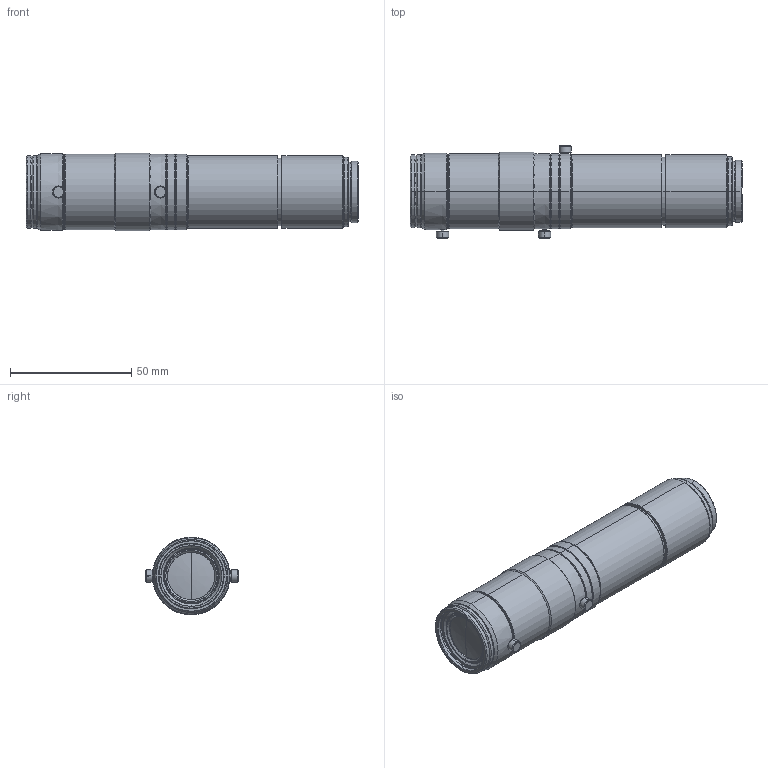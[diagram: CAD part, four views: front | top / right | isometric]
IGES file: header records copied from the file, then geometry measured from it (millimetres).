
Start section: SolidWorks IGES file using analytic representation for surfaces
Global section: file name: \\192.168.200.11\Development\3 製品\1 標準品\04 ズームレンズ\01 8x (VSZ-M0108S VSZ-M0324S)\VSZ-M0324S\VSZ-0324S.IGS; native system: SolidWorks 2020; preprocessor: SolidWorks 2020; author: sugiyama_vst; date: 200817.163245; units: millimetre
Bounding box: 136.7 x 38.2 x 31.99 mm (x, y, z)
Surface area: 17575.1 mm2 (no closed solid volume)
Topology: 0 solids, 0 shells, 176 faces, 3175 edges, 3173 vertices
Faces by surface type: revolution 146, bspline 30
